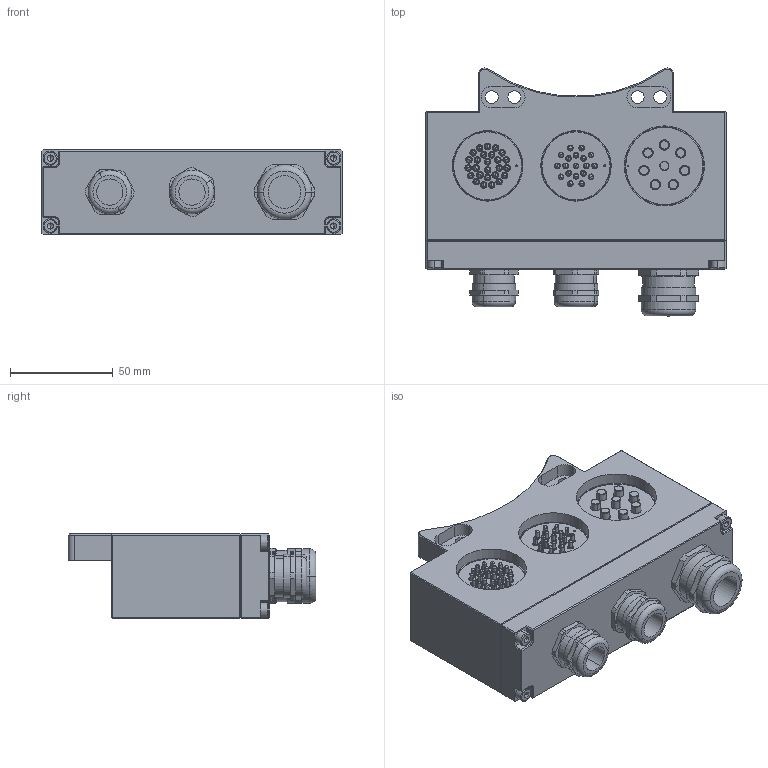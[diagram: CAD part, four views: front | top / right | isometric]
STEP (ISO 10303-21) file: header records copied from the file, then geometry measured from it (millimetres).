
FILE_DESCRIPTION (( 'STEP AP203' ), '1' );
FILE_NAME ('侜督萸爾耀輸G耜.STEP', '2023-12-21T05:22:41', ( '' ), ( '' ), 'SwSTEP 2.0', 'SolidWorks 2018', '' );
FILE_SCHEMA (( 'CONFIG_CONTROL_DESIGN' ));
Length unit declared in the file: millimetre
Products named in the file (1): 侜督萸爾耀輸G耜
Bounding box: 146 x 120.63 x 41.1 mm (x, y, z)
Volume: 467141.1 mm3; surface area: 63171.3 mm2
Topology: 1 solids, 12 shells, 1241 faces, 2984 edges, 1845 vertices
Faces by surface type: cylinder 495, plane 491, cone 125, sphere 90, torus 40
Entity records: 34991 total; most frequent: DIRECTION 6586, CARTESIAN_POINT 5998, ORIENTED_EDGE 5584, EDGE_CURVE 2792, AXIS2_PLACEMENT_3D 2597, VERTEX_POINT 1755, EDGE_LOOP 1455, VECTOR 1392
